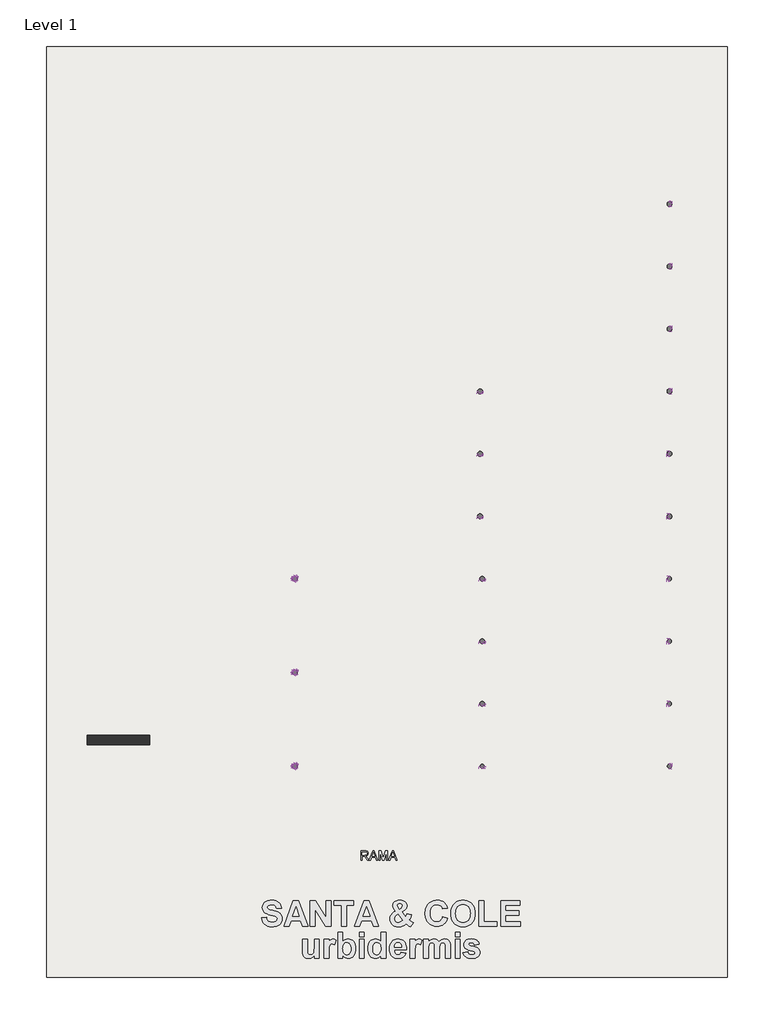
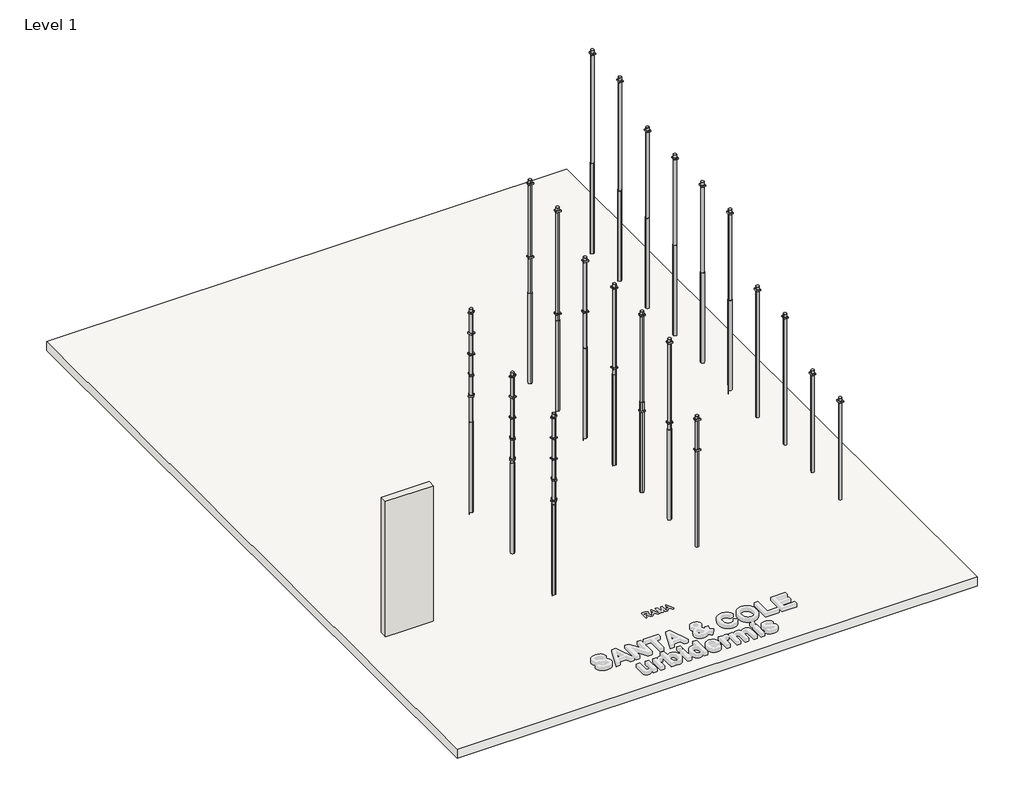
# One storey, part 1 of 2: 59 light fixtures, 1 slab, 1 wall.
"""IFC4 building model written with IfcOpenShell, lengths in millimetres."""

from ifc_helpers import new_model, si_unit, frame, origin, origin_with_axes, place, context, project, spatial, polyline, outline, extrude, transform, mapped, element, save
from components import rama_attachment_raa01_cc003ae8, rama_attachment_raa02_64b467fc, rama_pole_raf11p_10b28745, rama_pole_raf21p_eb033af8, rama_pole_raf51p_ffe0086f, rama_pole_raf81p_039a041a

model = new_model("IFC4")

# Units and contexts
model_context = context("Model", 3, world=origin())
ifc_project = project(units=[si_unit("LENGTHUNIT", "METRE", prefix="MILLI")], contexts=[model_context])

# Site, building, storey
site = spatial("IfcSite", under=ifc_project)
building = spatial("IfcBuilding", under=site)
storey = spatial("IfcBuildingStorey", under=building, Name="Level 1", Elevation=0.0)

# Light fixtures
placement = place(None, origin())
rama_attachment_raa01_shape = rama_attachment_raa01_cc003ae8(model_context)
element("IfcLightFixture", 1, ObjectType="RAMA_ATTACHMENT : RAA01", at=placement, inside=storey, context=model_context, shape_type="MappedRepresentation", body=[
    mapped(rama_attachment_raa01_shape, transform((-28472.2419729, -5921.3705056, 6010.0), x_axis=(0.0, 1.0, 0.0), y_axis=(-1.0, 0.0, 0.0), z_axis=(0.0, 0.0, 1.0))),
])
element("IfcLightFixture", 2, ObjectType="RAMA_ATTACHMENT : RAA01", at=placement, inside=storey, context=model_context, shape_type="MappedRepresentation", body=[
    mapped(rama_attachment_raa01_shape, transform((-28472.2419729, -5921.3705056, 7850.0), x_axis=(-0.5877852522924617, 0.8090169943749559, 0.0), y_axis=(-0.8090169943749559, -0.5877852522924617, 0.0), z_axis=(0.0, 0.0, 1.0))),
])
element("IfcLightFixture", 3, ObjectType="RAMA_ATTACHMENT : RAA01", at=placement, inside=storey, context=model_context, shape_type="MappedRepresentation", body=[
    mapped(rama_attachment_raa01_shape, transform((-28472.2419729, -5921.3705056, 6930.0), x_axis=(0.9510565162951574, 0.30901699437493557, 0.0), y_axis=(-0.30901699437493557, 0.9510565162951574, 0.0), z_axis=(0.0, 0.0, 1.0))),
])
element("IfcLightFixture", 4, ObjectType="RAMA_ATTACHMENT : RAA01", at=placement, inside=storey, context=model_context, shape_type="MappedRepresentation", body=[
    mapped(rama_attachment_raa01_shape, transform((-28472.2419729, -5921.3705056, 5090.0), x_axis=(-0.9510565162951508, 0.309016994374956, 0.0), y_axis=(-0.309016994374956, -0.9510565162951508, 0.0), z_axis=(0.0, 0.0, 1.0))),
])
element("IfcLightFixture", 5, ObjectType="RAMA_ATTACHMENT : RAA01", at=placement, inside=storey, context=model_context, shape_type="MappedRepresentation", body=[
    mapped(rama_attachment_raa01_shape, transform((-28472.2419729, -5921.3705056, 4170.0), x_axis=(-0.5877852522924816, -0.8090169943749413, 0.0), y_axis=(0.8090169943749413, -0.5877852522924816, 0.0), z_axis=(0.0, 0.0, 1.0))),
])
element("IfcLightFixture", 6, ObjectType="RAMA_ATTACHMENT : RAA01", at=placement, inside=storey, context=model_context, shape_type="MappedRepresentation", body=[
    mapped(rama_attachment_raa01_shape, transform((-28472.2419729, -2921.3705056, 6010.0), x_axis=(0.0, 1.0, 0.0), y_axis=(-1.0, 0.0, 0.0), z_axis=(0.0, 0.0, 1.0))),
])
element("IfcLightFixture", 7, ObjectType="RAMA_ATTACHMENT : RAA01", at=placement, inside=storey, context=model_context, shape_type="MappedRepresentation", body=[
    mapped(rama_attachment_raa01_shape, transform((-28472.2419729, -2921.3705056, 7850.0), x_axis=(-0.5877852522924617, 0.8090169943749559, 0.0), y_axis=(-0.8090169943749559, -0.5877852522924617, 0.0), z_axis=(0.0, 0.0, 1.0))),
])
element("IfcLightFixture", 8, ObjectType="RAMA_ATTACHMENT : RAA01", at=placement, inside=storey, context=model_context, shape_type="MappedRepresentation", body=[
    mapped(rama_attachment_raa01_shape, transform((-28472.2419729, -2921.3705056, 6930.0), x_axis=(0.9510565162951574, 0.30901699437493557, 0.0), y_axis=(-0.30901699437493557, 0.9510565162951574, 0.0), z_axis=(0.0, 0.0, 1.0))),
])
element("IfcLightFixture", 9, ObjectType="RAMA_ATTACHMENT : RAA01", at=placement, inside=storey, context=model_context, shape_type="MappedRepresentation", body=[
    mapped(rama_attachment_raa01_shape, transform((-28472.2419729, -2921.3705056, 5090.0), x_axis=(-0.9510565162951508, 0.309016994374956, 0.0), y_axis=(-0.309016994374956, -0.9510565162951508, 0.0), z_axis=(0.0, 0.0, 1.0))),
])
element("IfcLightFixture", 10, ObjectType="RAMA_ATTACHMENT : RAA01", at=placement, inside=storey, context=model_context, shape_type="MappedRepresentation", body=[
    mapped(rama_attachment_raa01_shape, transform((-28472.2419729, -2921.3705056, 4170.0), x_axis=(-0.5877852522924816, -0.8090169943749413, 0.0), y_axis=(0.8090169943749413, -0.5877852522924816, 0.0), z_axis=(0.0, 0.0, 1.0))),
])
element("IfcLightFixture", 11, ObjectType="RAMA_ATTACHMENT : RAA01", at=placement, inside=storey, context=model_context, shape_type="MappedRepresentation", body=[
    mapped(rama_attachment_raa01_shape, transform((-28472.2419729, 78.6294944, 7010.0), x_axis=(0.0, 1.0, 0.0), y_axis=(-1.0, 0.0, 0.0), z_axis=(0.0, 0.0, 1.0))),
])
element("IfcLightFixture", 12, ObjectType="RAMA_ATTACHMENT : RAA01", at=placement, inside=storey, context=model_context, shape_type="MappedRepresentation", body=[
    mapped(rama_attachment_raa01_shape, transform((-28472.2419729, 78.6294944, 8850.0), x_axis=(-0.5877852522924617, 0.8090169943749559, 0.0), y_axis=(-0.8090169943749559, -0.5877852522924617, 0.0), z_axis=(0.0, 0.0, 1.0))),
])
element("IfcLightFixture", 13, ObjectType="RAMA_ATTACHMENT : RAA01", at=placement, inside=storey, context=model_context, shape_type="MappedRepresentation", body=[
    mapped(rama_attachment_raa01_shape, transform((-28472.2419729, 78.6294944, 7930.0), x_axis=(0.9510565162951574, 0.30901699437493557, 0.0), y_axis=(-0.30901699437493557, 0.9510565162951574, 0.0), z_axis=(0.0, 0.0, 1.0))),
])
element("IfcLightFixture", 14, ObjectType="RAMA_ATTACHMENT : RAA01", at=placement, inside=storey, context=model_context, shape_type="MappedRepresentation", body=[
    mapped(rama_attachment_raa01_shape, transform((-28472.2419729, 78.6294944, 6090.0), x_axis=(-0.9510565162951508, 0.309016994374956, 0.0), y_axis=(-0.309016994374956, -0.9510565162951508, 0.0), z_axis=(0.0, 0.0, 1.0))),
])
element("IfcLightFixture", 15, ObjectType="RAMA_ATTACHMENT : RAA01", at=placement, inside=storey, context=model_context, shape_type="MappedRepresentation", body=[
    mapped(rama_attachment_raa01_shape, transform((-28472.2419729, 78.6294944, 5170.0), x_axis=(-0.5877852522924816, -0.8090169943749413, 0.0), y_axis=(0.8090169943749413, -0.5877852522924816, 0.0), z_axis=(0.0, 0.0, 1.0))),
])
element("IfcLightFixture", 16, ObjectType="RAMA_ATTACHMENT : RAA01", at=placement, inside=storey, context=model_context, shape_type="MappedRepresentation", body=[
    mapped(rama_attachment_raa01_shape, transform((-22472.2419729, -3921.3705056, 7850.0), x_axis=(0.0, -1.0, 0.0), y_axis=(1.0, 0.0, 0.0), z_axis=(0.0, 0.0, 1.0))),
])
element("IfcLightFixture", 17, ObjectType="RAMA_ATTACHMENT : RAA01", at=placement, inside=storey, context=model_context, shape_type="MappedRepresentation", body=[
    mapped(rama_attachment_raa01_shape, transform((-22472.2419729, -3921.3705056, 4300.0), x_axis=(0.0, -1.0, 0.0), y_axis=(1.0, 0.0, 0.0), z_axis=(0.0, 0.0, 1.0))),
])
element("IfcLightFixture", 18, ObjectType="RAMA_ATTACHMENT : RAA01", at=placement, inside=storey, context=model_context, shape_type="MappedRepresentation", body=[
    mapped(rama_attachment_raa01_shape, transform((-22472.2419729, -1921.3705056, 7850.0), x_axis=(0.0, -1.0, 0.0), y_axis=(1.0, 0.0, 0.0), z_axis=(0.0, 0.0, 1.0))),
])
element("IfcLightFixture", 19, ObjectType="RAMA_ATTACHMENT : RAA01", at=placement, inside=storey, context=model_context, shape_type="MappedRepresentation", body=[
    mapped(rama_attachment_raa01_shape, transform((-22472.2419729, -1921.3705056, 3600.0), x_axis=(0.0, -1.0, 0.0), y_axis=(1.0, 0.0, 0.0), z_axis=(0.0, 0.0, 1.0))),
])
element("IfcLightFixture", 20, ObjectType="RAMA_ATTACHMENT : RAA01", at=placement, inside=storey, context=model_context, shape_type="MappedRepresentation", body=[
    mapped(rama_attachment_raa01_shape, transform((-22472.2419729, 78.6294944, 7850.0), x_axis=(0.0, -1.0, 0.0), y_axis=(1.0, 0.0, 0.0), z_axis=(0.0, 0.0, 1.0))),
])
element("IfcLightFixture", 21, ObjectType="RAMA_ATTACHMENT : RAA01", at=placement, inside=storey, context=model_context, shape_type="MappedRepresentation", body=[
    mapped(rama_attachment_raa01_shape, transform((-22472.2419729, 78.6294944, 4300.0), x_axis=(0.0, -1.0, 0.0), y_axis=(1.0, 0.0, 0.0), z_axis=(0.0, 0.0, 1.0))),
])
element("IfcLightFixture", 22, ObjectType="RAMA_ATTACHMENT : RAA01", at=placement, inside=storey, context=model_context, shape_type="MappedRepresentation", body=[
    mapped(rama_attachment_raa01_shape, transform((-22542.0409663, 2077.4111485, 7850.0), x_axis=(0.0, -1.0, 0.0), y_axis=(1.0, 0.0, 0.0), z_axis=(0.0, 0.0, 1.0))),
])
element("IfcLightFixture", 23, ObjectType="RAMA_ATTACHMENT : RAA01", at=placement, inside=storey, context=model_context, shape_type="MappedRepresentation", body=[
    mapped(rama_attachment_raa01_shape, transform((-22542.0409663, 2077.4111485, 5600.0), x_axis=(0.0, -1.0, 0.0), y_axis=(1.0, 0.0, 0.0), z_axis=(0.0, 0.0, 1.0))),
])
element("IfcLightFixture", 24, ObjectType="RAMA_ATTACHMENT : RAA01", at=placement, inside=storey, context=model_context, shape_type="MappedRepresentation", body=[
    mapped(rama_attachment_raa01_shape, transform((-22542.0409663, 4077.4111485, 8850.0), x_axis=(0.0, -1.0, 0.0), y_axis=(1.0, 0.0, 0.0), z_axis=(0.0, 0.0, 1.0))),
])
element("IfcLightFixture", 25, ObjectType="RAMA_ATTACHMENT : RAA01", at=placement, inside=storey, context=model_context, shape_type="MappedRepresentation", body=[
    mapped(rama_attachment_raa01_shape, transform((-22542.0409663, 4077.4111485, 4300.0), x_axis=(0.0, -1.0, 0.0), y_axis=(1.0, 0.0, 0.0), z_axis=(0.0, 0.0, 1.0))),
])
element("IfcLightFixture", 26, ObjectType="RAMA_ATTACHMENT : RAA01", at=placement, inside=storey, context=model_context, shape_type="MappedRepresentation", body=[
    mapped(rama_attachment_raa01_shape, transform((-22542.0409663, 6077.4111485, 8850.0), x_axis=(0.0, -1.0, 0.0), y_axis=(1.0, 0.0, 0.0), z_axis=(0.0, 0.0, 1.0))),
])
element("IfcLightFixture", 27, ObjectType="RAMA_ATTACHMENT : RAA01", at=placement, inside=storey, context=model_context, shape_type="MappedRepresentation", body=[
    mapped(rama_attachment_raa01_shape, transform((-22542.0409663, 6077.4111485, 5600.0), x_axis=(0.0, -1.0, 0.0), y_axis=(1.0, 0.0, 0.0), z_axis=(0.0, 0.0, 1.0))),
])
element("IfcLightFixture", 28, ObjectType="RAMA_ATTACHMENT : RAA01", at=placement, inside=storey, context=model_context, shape_type="MappedRepresentation", body=[
    mapped(rama_attachment_raa01_shape, transform((-22472.2419729, -5921.3705056, 5650.0), x_axis=(0.0, -1.0, 0.0), y_axis=(1.0, 0.0, 0.0), z_axis=(0.0, 0.0, 1.0))),
])
element("IfcLightFixture", 29, ObjectType="RAMA_ATTACHMENT : RAA01", at=placement, inside=storey, context=model_context, shape_type="MappedRepresentation", body=[
    mapped(rama_attachment_raa01_shape, transform((-22472.2419729, -5921.3705056, 4300.0), x_axis=(0.0, -1.0, 0.0), y_axis=(1.0, 0.0, 0.0), z_axis=(0.0, 0.0, 1.0))),
])
rama_attachment_raa02_shape = rama_attachment_raa02_64b467fc(model_context)
element("IfcLightFixture", 30, ObjectType="RAMA_ATTACHMENT : RAA02", at=placement, inside=storey, context=model_context, shape_type="MappedRepresentation", body=[
    mapped(rama_attachment_raa02_shape, transform((-16472.2419729, -5921.3705056, 4350.0), x_axis=(1.0, 0.0, 0.0), y_axis=(0.0, 1.0, 0.0), z_axis=(0.0, 0.0, 1.0))),
])
element("IfcLightFixture", 31, ObjectType="RAMA_ATTACHMENT : RAA02", at=placement, inside=storey, context=model_context, shape_type="MappedRepresentation", body=[
    mapped(rama_attachment_raa02_shape, transform((-16472.2419729, -3921.3705056, 4350.0), x_axis=(1.0, 0.0, 0.0), y_axis=(0.0, 1.0, 0.0), z_axis=(0.0, 0.0, 1.0))),
])
element("IfcLightFixture", 32, ObjectType="RAMA_ATTACHMENT : RAA02", at=placement, inside=storey, context=model_context, shape_type="MappedRepresentation", body=[
    mapped(rama_attachment_raa02_shape, transform((-16472.2419729, -1921.3705056, 5650.0), x_axis=(1.0, 0.0, 0.0), y_axis=(0.0, 1.0, 0.0), z_axis=(0.0, 0.0, 1.0))),
])
element("IfcLightFixture", 33, ObjectType="RAMA_ATTACHMENT : RAA02", at=placement, inside=storey, context=model_context, shape_type="MappedRepresentation", body=[
    mapped(rama_attachment_raa02_shape, transform((-16472.2419729, 78.6294944, 5650.0), x_axis=(1.0, 0.0, 0.0), y_axis=(0.0, 1.0, 0.0), z_axis=(0.0, 0.0, 1.0))),
])
element("IfcLightFixture", 34, ObjectType="RAMA_ATTACHMENT : RAA02", at=placement, inside=storey, context=model_context, shape_type="MappedRepresentation", body=[
    mapped(rama_attachment_raa02_shape, transform((-16472.2419729, 2073.757595, 7850.0), x_axis=(1.0, 0.0, 0.0), y_axis=(0.0, 1.0, 0.0), z_axis=(0.0, 0.0, 1.0))),
])
element("IfcLightFixture", 35, ObjectType="RAMA_ATTACHMENT : RAA02", at=placement, inside=storey, context=model_context, shape_type="MappedRepresentation", body=[
    mapped(rama_attachment_raa02_shape, transform((-16472.2419729, 4078.6294944, 7850.0), x_axis=(1.0, 0.0, 0.0), y_axis=(0.0, 1.0, 0.0), z_axis=(0.0, 0.0, 1.0))),
])
element("IfcLightFixture", 36, ObjectType="RAMA_ATTACHMENT : RAA02", at=placement, inside=storey, context=model_context, shape_type="MappedRepresentation", body=[
    mapped(rama_attachment_raa02_shape, transform((-16472.2419729, 6078.6294944, 7850.0), x_axis=(1.0, 0.0, 0.0), y_axis=(0.0, 1.0, 0.0), z_axis=(0.0, 0.0, 1.0))),
])
element("IfcLightFixture", 37, ObjectType="RAMA_ATTACHMENT : RAA02", at=placement, inside=storey, context=model_context, shape_type="MappedRepresentation", body=[
    mapped(rama_attachment_raa02_shape, transform((-16472.2419729, 8078.6294944, 7850.0), x_axis=(1.0, 0.0, 0.0), y_axis=(0.0, 1.0, 0.0), z_axis=(0.0, 0.0, 1.0))),
])
element("IfcLightFixture", 38, ObjectType="RAMA_ATTACHMENT : RAA02", at=placement, inside=storey, context=model_context, shape_type="MappedRepresentation", body=[
    mapped(rama_attachment_raa02_shape, transform((-16472.2419729, 10078.6294944, 8850.0), x_axis=(1.0, 0.0, 0.0), y_axis=(0.0, 1.0, 0.0), z_axis=(0.0, 0.0, 1.0))),
])
element("IfcLightFixture", 39, ObjectType="RAMA_ATTACHMENT : RAA02", at=placement, inside=storey, context=model_context, shape_type="MappedRepresentation", body=[
    mapped(rama_attachment_raa02_shape, transform((-16472.2419729, 12073.757595, 8850.0), x_axis=(1.0, 0.0, 0.0), y_axis=(0.0, 1.0, 0.0), z_axis=(0.0, 0.0, 1.0))),
])
rama_pole_raf11p_shape = rama_pole_raf11p_10b28745(model_context)
element("IfcLightFixture", 40, ObjectType="RAMA_POLE : RAF11P", at=placement, inside=storey, context=model_context, shape_type="MappedRepresentation", body=[
    mapped(rama_pole_raf11p_shape, transform((-16472.2419729, -5921.3705056, 0.0), x_axis=(1.0, 0.0, 0.0), y_axis=(0.0, 1.0, 0.0), z_axis=(0.0, 0.0, 1.0))),
])
element("IfcLightFixture", 41, ObjectType="RAMA_POLE : RAF11P", at=placement, inside=storey, context=model_context, shape_type="MappedRepresentation", body=[
    mapped(rama_pole_raf11p_shape, transform((-16472.2419729, -3921.3705056, 0.0), x_axis=(1.0, 0.0, 0.0), y_axis=(0.0, 1.0, 0.0), z_axis=(0.0, 0.0, 1.0))),
])
rama_pole_raf21p_shape = rama_pole_raf21p_eb033af8(model_context)
element("IfcLightFixture", 42, ObjectType="RAMA_POLE : RAF21P", at=placement, inside=storey, context=model_context, shape_type="MappedRepresentation", body=[
    mapped(rama_pole_raf21p_shape, transform((-16472.2419729, -1921.3705056, 0.0), x_axis=(1.0, 0.0, 0.0), y_axis=(0.0, 1.0, 0.0), z_axis=(0.0, 0.0, 1.0))),
])
element("IfcLightFixture", 43, ObjectType="RAMA_POLE : RAF21P", at=placement, inside=storey, context=model_context, shape_type="MappedRepresentation", body=[
    mapped(rama_pole_raf21p_shape, transform((-16472.2419729, 78.6294944, 0.0), x_axis=(1.0, 0.0, 0.0), y_axis=(0.0, 1.0, 0.0), z_axis=(0.0, 0.0, 1.0))),
])
element("IfcLightFixture", 44, ObjectType="RAMA_POLE : RAF31P", at=placement, inside=storey, context=model_context, shape_type="MappedRepresentation", body=[
    mapped(rama_pole_raf21p_shape, transform((-22472.2419729, -5921.3705056, 0.0), x_axis=(0.0, -1.0, 0.0), y_axis=(1.0, 0.0, 0.0), z_axis=(0.0, 0.0, 1.0))),
])
rama_pole_raf51p_shape = rama_pole_raf51p_ffe0086f(model_context)
element("IfcLightFixture", 45, ObjectType="RAMA_POLE : RAF51P", at=placement, inside=storey, context=model_context, shape_type="MappedRepresentation", body=[
    mapped(rama_pole_raf51p_shape, transform((-16472.2419729, 2073.757595, 0.0), x_axis=(1.0, 0.0, 0.0), y_axis=(0.0, 1.0, 0.0), z_axis=(0.0, 0.0, 1.0))),
])
element("IfcLightFixture", 46, ObjectType="RAMA_POLE : RAF51P", at=placement, inside=storey, context=model_context, shape_type="MappedRepresentation", body=[
    mapped(rama_pole_raf51p_shape, transform((-16472.2419729, 4078.6294944, 0.0), x_axis=(1.0, 0.0, 0.0), y_axis=(0.0, 1.0, 0.0), z_axis=(0.0, 0.0, 1.0))),
])
element("IfcLightFixture", 47, ObjectType="RAMA_POLE : RAF54", at=placement, inside=storey, context=model_context, shape_type="MappedRepresentation", body=[
    mapped(rama_pole_raf51p_shape, transform((-16472.2419729, 6078.6294944, 0.0), x_axis=(1.0, 0.0, 0.0), y_axis=(0.0, 1.0, 0.0), z_axis=(0.0, 0.0, 1.0))),
])
element("IfcLightFixture", 48, ObjectType="RAMA_POLE : RAF54", at=placement, inside=storey, context=model_context, shape_type="MappedRepresentation", body=[
    mapped(rama_pole_raf51p_shape, transform((-16472.2419729, 8078.6294944, 0.0), x_axis=(1.0, 0.0, 0.0), y_axis=(0.0, 1.0, 0.0), z_axis=(0.0, 0.0, 1.0))),
])
element("IfcLightFixture", 49, ObjectType="RAMA_POLE : RAF61P", at=placement, inside=storey, context=model_context, shape_type="MappedRepresentation", body=[
    mapped(rama_pole_raf51p_shape, transform((-22472.2419729, -3921.3705056, 0.0), x_axis=(0.0, -1.0, 0.0), y_axis=(1.0, 0.0, 0.0), z_axis=(0.0, 0.0, 1.0))),
])
element("IfcLightFixture", 50, ObjectType="RAMA_POLE : RAF62P", at=placement, inside=storey, context=model_context, shape_type="MappedRepresentation", body=[
    mapped(rama_pole_raf51p_shape, transform((-22472.2419729, -1921.3705056, 0.0), x_axis=(0.0, -1.0, 0.0), y_axis=(1.0, 0.0, 0.0), z_axis=(0.0, 0.0, 1.0))),
])
element("IfcLightFixture", 51, ObjectType="RAMA_POLE : RAF64", at=placement, inside=storey, context=model_context, shape_type="MappedRepresentation", body=[
    mapped(rama_pole_raf51p_shape, transform((-22472.2419729, 78.6294944, 0.0), x_axis=(0.0, -1.0, 0.0), y_axis=(1.0, 0.0, 0.0), z_axis=(0.0, 0.0, 1.0))),
])
element("IfcLightFixture", 52, ObjectType="RAMA_POLE : RAF65", at=placement, inside=storey, context=model_context, shape_type="MappedRepresentation", body=[
    mapped(rama_pole_raf51p_shape, transform((-22542.0409663, 2077.4111485, 0.0), x_axis=(0.0, -1.0, 0.0), y_axis=(1.0, 0.0, 0.0), z_axis=(0.0, 0.0, 1.0))),
])
element("IfcLightFixture", 53, ObjectType="RAMA_POLE : RAF71P", at=placement, inside=storey, context=model_context, shape_type="MappedRepresentation", body=[
    mapped(rama_pole_raf51p_shape, transform((-28472.2419729, -5921.3705056, 0.0), x_axis=(0.0, -1.0, 0.0), y_axis=(1.0, 0.0, 0.0), z_axis=(0.0, 0.0, 1.0))),
])
element("IfcLightFixture", 54, ObjectType="RAMA_POLE : RAF74", at=placement, inside=storey, context=model_context, shape_type="MappedRepresentation", body=[
    mapped(rama_pole_raf51p_shape, transform((-28472.2419729, -2921.3705056, 0.0), x_axis=(0.0, -1.0, 0.0), y_axis=(1.0, 0.0, 0.0), z_axis=(0.0, 0.0, 1.0))),
])
rama_pole_raf81p_shape = rama_pole_raf81p_039a041a(model_context)
element("IfcLightFixture", 55, ObjectType="RAMA_POLE : RAF81P", at=placement, inside=storey, context=model_context, shape_type="MappedRepresentation", body=[
    mapped(rama_pole_raf81p_shape, transform((-16472.2419729, 10078.6294944, 0.0), x_axis=(1.0, 0.0, 0.0), y_axis=(0.0, 1.0, 0.0), z_axis=(0.0, 0.0, 1.0))),
])
element("IfcLightFixture", 56, ObjectType="RAMA_POLE : RAF81P", at=placement, inside=storey, context=model_context, shape_type="MappedRepresentation", body=[
    mapped(rama_pole_raf81p_shape, transform((-16472.2419729, 12073.757595, 0.0), x_axis=(1.0, 0.0, 0.0), y_axis=(0.0, 1.0, 0.0), z_axis=(0.0, 0.0, 1.0))),
])
element("IfcLightFixture", 57, ObjectType="RAMA_POLE : RAF83P", at=placement, inside=storey, context=model_context, shape_type="MappedRepresentation", body=[
    mapped(rama_pole_raf81p_shape, transform((-22542.0409663, 4077.4111485, 0.0), x_axis=(0.0, -1.0, 0.0), y_axis=(1.0, 0.0, 0.0), z_axis=(0.0, 0.0, 1.0))),
])
element("IfcLightFixture", 58, ObjectType="RAMA_POLE : RAF85P", at=placement, inside=storey, context=model_context, shape_type="MappedRepresentation", body=[
    mapped(rama_pole_raf81p_shape, transform((-22542.0409663, 6077.4111485, 0.0), x_axis=(0.0, -1.0, 0.0), y_axis=(1.0, 0.0, 0.0), z_axis=(0.0, 0.0, 1.0))),
])
element("IfcLightFixture", 59, ObjectType="RAMA_POLE : RAF86P", at=placement, inside=storey, context=model_context, shape_type="MappedRepresentation", body=[
    mapped(rama_pole_raf81p_shape, transform((-28472.2419729, 78.6294944, 0.0), x_axis=(0.0, -1.0, 0.0), y_axis=(1.0, 0.0, 0.0), z_axis=(0.0, 0.0, 1.0))),
])

# Slab
element("IfcSlab", 60, ObjectType="Generic Floor - 400mm", at=placement, inside=storey, context=model_context, shape_type="SweptSolid", body=[
    extrude(outline(polyline([(-14627.9838256, 17115.3341085), (-14627.9838256, -12684.6658915), (-36427.9838256, -12684.6658915), (-36427.9838256, 17115.3341085), (-14627.9838256, 17115.3341085)])), frame((0.0, 0.0, -400.0), z_axis=(0.0, 0.0, 1.0), x_axis=(1.0, 0.0, 0.0)), (0.0, 0.0, 1.0), 400.0),
])

# Wall
element("IfcWall", 61, ObjectType="Generic - 300mm", at=placement, inside=storey, context=model_context, shape_type="SweptSolid", body=[
    extrude(outline(polyline([(-35130.5125175, -4934.6658915), (-33130.5125175, -4934.6658915), (-33130.5125175, -5234.6658915), (-35130.5125175, -5234.6658915), (-35130.5125175, -4934.6658915)])), origin_with_axes(), (0.0, 0.0, 1.0), 6000.0),
])

save(model, "model.ifc")
